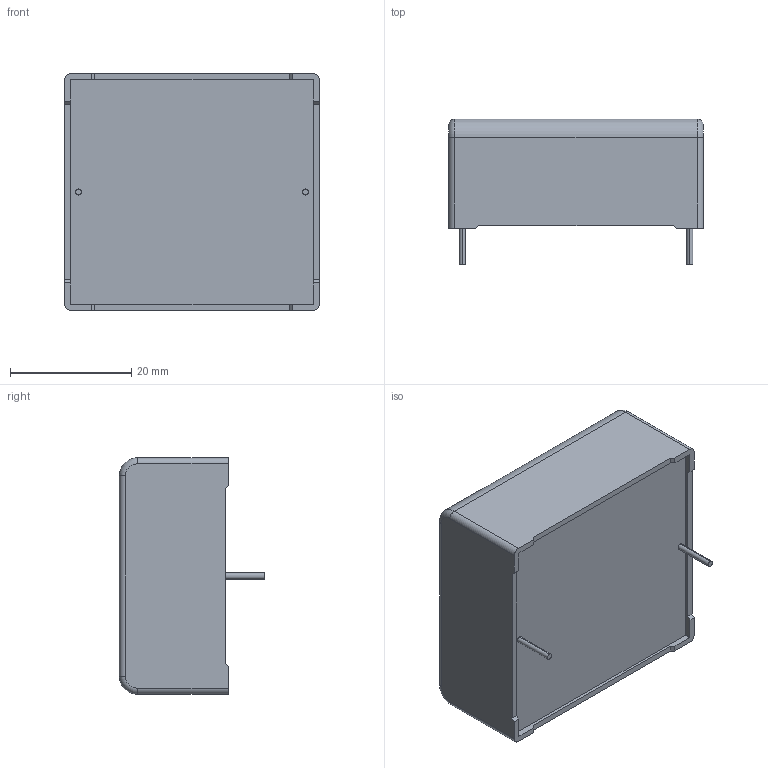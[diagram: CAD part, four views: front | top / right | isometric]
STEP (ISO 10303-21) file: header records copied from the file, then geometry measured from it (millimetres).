
FILE_DESCRIPTION (( 'STEP AP203' ), '1' );
FILE_NAME ('DC_Link_39x18x42_2pins.step', '2017-04-03T16:00:16', ( 'work' ), ( 'Hewlett-Packard Company' ), 'SwSTEP 2.0', 'SolidWorks 2017', '' );
FILE_SCHEMA (( 'CONFIG_CONTROL_DESIGN' ));
Length unit declared in the file: millimetre
Products named in the file (1): DC_Link_39x18x42_2pins
Bounding box: 42 x 24 x 39 mm (x, y, z)
Volume: 27759.9 mm3; surface area: 6088.2 mm2
Topology: 1 solids, 1 shells, 116 faces, 307 edges, 202 vertices
Faces by surface type: plane 80, cylinder 16, bspline 16, torus 4
Entity records: 4332 total; most frequent: CARTESIAN_POINT 1450, ORIENTED_EDGE 614, DIRECTION 513, EDGE_CURVE 307, LINE 239, VECTOR 239, VERTEX_POINT 202, AXIS2_PLACEMENT_3D 137
